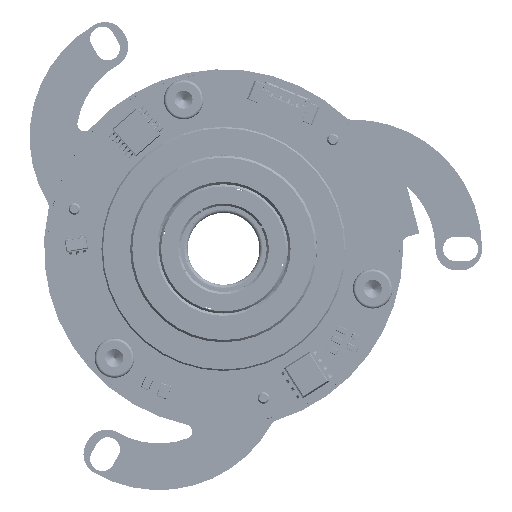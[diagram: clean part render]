
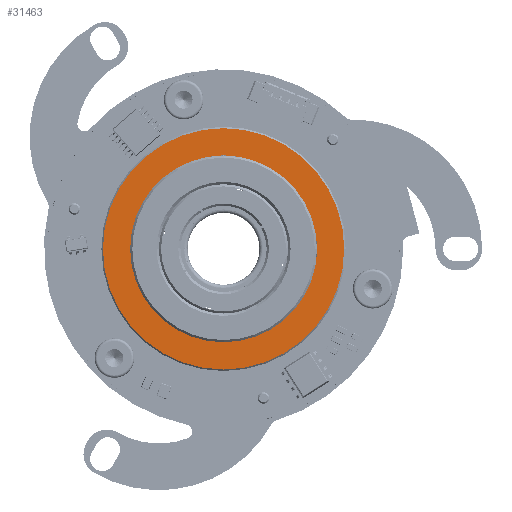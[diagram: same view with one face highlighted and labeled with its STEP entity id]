
A CAD part, front view. The second image highlights one B-rep face of the part: STEP entity #31463.
In plain terms, the highlighted planar face has unit normal (0, -1, 0).
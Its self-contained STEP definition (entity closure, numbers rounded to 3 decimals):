
#439=CARTESIAN_POINT('',(-180.85,19.39,-1.671));
#440=DIRECTION('',(0.,1.,0.));
#441=DIRECTION('',(0.866,0.,-0.5));
#442=AXIS2_PLACEMENT_3D('',#439,#440,#441);
#444=CARTESIAN_POINT('',(-180.85,19.39,-1.671));
#445=DIRECTION('',(0.,1.,0.));
#446=DIRECTION('',(-0.5,0.,-0.866));
#447=AXIS2_PLACEMENT_3D('',#444,#445,#446);
#449=CARTESIAN_POINT('',(-180.85,19.39,-1.671));
#450=DIRECTION('',(0.,1.,0.));
#451=DIRECTION('',(-0.866,0.,0.5));
#452=AXIS2_PLACEMENT_3D('',#449,#450,#451);
#454=CARTESIAN_POINT('',(-180.85,19.39,-1.671));
#455=DIRECTION('',(0.,1.,0.));
#456=DIRECTION('',(0.5,0.,0.866));
#457=AXIS2_PLACEMENT_3D('',#454,#455,#456);
#459=CARTESIAN_POINT('',(-180.85,19.39,-1.671));
#460=DIRECTION('',(0.,-1.,0.));
#461=DIRECTION('',(0.866,0.,-0.5));
#462=AXIS2_PLACEMENT_3D('',#459,#460,#461);
#464=CARTESIAN_POINT('',(-180.85,19.39,-1.671));
#465=DIRECTION('',(0.,-1.,0.));
#466=DIRECTION('',(-0.866,0.,0.5));
#467=AXIS2_PLACEMENT_3D('',#464,#465,#466);
#26938=CARTESIAN_POINT('',(-172.45,19.39,
12.879));
#26939=CARTESIAN_POINT('',(-166.301,19.39,
-10.071));
#26940=VERTEX_POINT('',#26938);
#26941=VERTEX_POINT('',#26939);
#26942=CARTESIAN_POINT('',(-195.4,19.39,
6.729));
#26943=VERTEX_POINT('',#26942);
#26944=CARTESIAN_POINT('',(-189.25,19.39,
-16.22));
#26945=VERTEX_POINT('',#26944);
#26946=CARTESIAN_POINT('',(-169.592,19.39,
-8.171));
#26947=CARTESIAN_POINT('',(-192.109,19.39,
4.829));
#26948=VERTEX_POINT('',#26946);
#26949=VERTEX_POINT('',#26947);
#31444=CARTESIAN_POINT('',(-23.394,19.39,
-90.649));
#31445=DIRECTION('',(0.,-1.,0.));
#31446=DIRECTION('',(0.866,0.,-0.5));
#31447=AXIS2_PLACEMENT_3D('',#31444,#31445,#31446);
#31448=PLANE('',#31447);
#31450=ORIENTED_EDGE('',*,*,#31449,.T.);
#31452=ORIENTED_EDGE('',*,*,#31451,.T.);
#31453=ORIENTED_EDGE('',*,*,#31426,.T.);
#31454=ORIENTED_EDGE('',*,*,#31424,.T.);
#31455=EDGE_LOOP('',(#31450,#31452,#31453,#31454));
#31456=FACE_OUTER_BOUND('',#31455,.F.);
#31458=ORIENTED_EDGE('',*,*,#31457,.T.);
#31460=ORIENTED_EDGE('',*,*,#31459,.T.);
#31461=EDGE_LOOP('',(#31458,#31460));
#31462=FACE_BOUND('',#31461,.F.);
#31463=ADVANCED_FACE('',(#31456,#31462),#31448,.T.);
#443=CIRCLE('',#442,16.8);
#448=CIRCLE('',#447,16.8);
#453=CIRCLE('',#452,16.8);
#458=CIRCLE('',#457,16.8);
#463=CIRCLE('',#462,13.);
#468=CIRCLE('',#467,13.);
#31424=EDGE_CURVE('',#26940,#26941,#458,.T.);
#31426=EDGE_CURVE('',#26943,#26940,#453,.T.);
#31449=EDGE_CURVE('',#26941,#26945,#443,.T.);
#31451=EDGE_CURVE('',#26945,#26943,#448,.T.);
#31457=EDGE_CURVE('',#26948,#26949,#463,.T.);
#31459=EDGE_CURVE('',#26949,#26948,#468,.T.);
